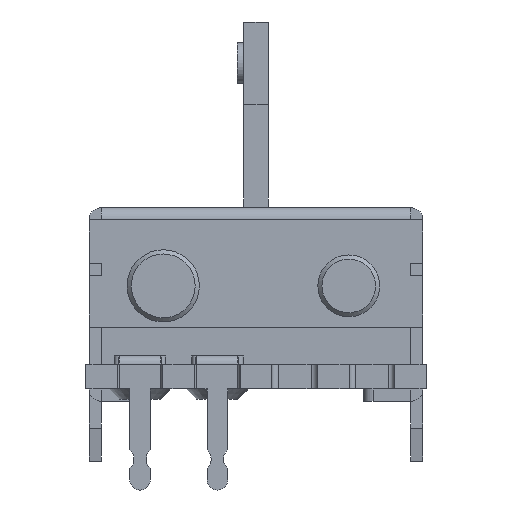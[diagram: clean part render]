
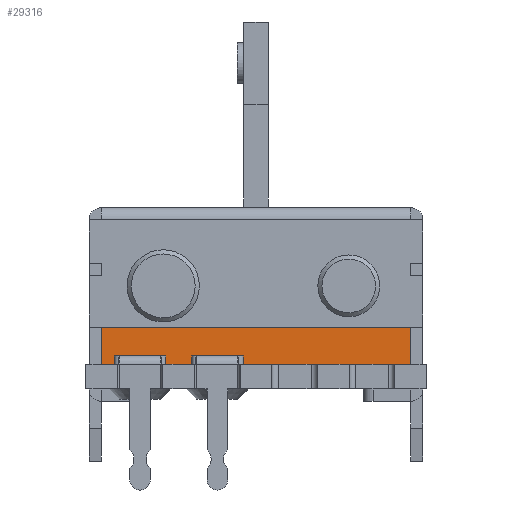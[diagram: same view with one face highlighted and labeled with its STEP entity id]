
A CAD part, left-side view. The second image highlights one B-rep face of the part: STEP entity #29316.
In plain terms, the highlighted planar face has unit normal (-1, 0, 0).
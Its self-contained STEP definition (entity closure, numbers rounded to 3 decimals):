
#10059 = PLANE('',#10060);
#10060 = AXIS2_PLACEMENT_3D('',#10061,#10062,#10063);
#10061 = CARTESIAN_POINT('',(-39.3,-9.5,-7.6));
#10062 = DIRECTION('',(1.,0.,0.));
#10063 = DIRECTION('',(0.,0.,1.));
#10085 = PLANE('',#10086);
#10086 = AXIS2_PLACEMENT_3D('',#10087,#10088,#10089);
#10087 = CARTESIAN_POINT('',(-44.,-8.25,-7.6));
#10088 = DIRECTION('',(0.,0.,1.));
#10089 = DIRECTION('',(1.,0.,0.));
#11680 = PLANE('',#11681);
#11681 = AXIS2_PLACEMENT_3D('',#11682,#11683,#11684);
#11682 = CARTESIAN_POINT('',(-39.3,7.5,-7.6));
#11683 = DIRECTION('',(1.,0.,0.));
#11684 = DIRECTION('',(0.,0.,1.));
#23017 = VERTEX_POINT('',#23018);
#23018 = CARTESIAN_POINT('',(-39.3,-7.5,-7.6));
#23039 = EDGE_CURVE('',#23017,#23040,#23042,.T.);
#23040 = VERTEX_POINT('',#23041);
#23041 = CARTESIAN_POINT('',(-39.3,7.5,-7.6));
#23042 = SURFACE_CURVE('',#23043,(#23047,#23054),.PCURVE_S1.);
#23043 = LINE('',#23044,#23045);
#23044 = CARTESIAN_POINT('',(-39.3,-8.35,-7.6));
#23045 = VECTOR('',#23046,1.);
#23046 = DIRECTION('',(0.,1.,0.));
#23047 = PCURVE('',#10085,#23048);
#23048 = DEFINITIONAL_REPRESENTATION('',(#23049),#23053);
#23049 = LINE('',#23050,#23051);
#23050 = CARTESIAN_POINT('',(4.7,-0.1));
#23051 = VECTOR('',#23052,1.);
#23052 = DIRECTION('',(0.,1.));
#23053 = ( GEOMETRIC_REPRESENTATION_CONTEXT(2) 
PARAMETRIC_REPRESENTATION_CONTEXT() REPRESENTATION_CONTEXT('2D SPACE',''
  ) );
#23054 = PCURVE('',#23055,#23060);
#23055 = PLANE('',#23056);
#23056 = AXIS2_PLACEMENT_3D('',#23057,#23058,#23059);
#23057 = CARTESIAN_POINT('',(-39.3,-9.2,-16.8));
#23058 = DIRECTION('',(1.,0.,0.));
#23059 = DIRECTION('',(0.,0.,1.));
#23060 = DEFINITIONAL_REPRESENTATION('',(#23061),#23064);
#23061 = B_SPLINE_CURVE_WITH_KNOTS('',1,(#23062,#23063),.UNSPECIFIED.,
  .F.,.F.,(2,2),(0.85,15.85),.PIECEWISE_BEZIER_KNOTS.);
#23062 = CARTESIAN_POINT('',(9.2,-1.7));
#23063 = CARTESIAN_POINT('',(9.2,-16.7));
#23064 = ( GEOMETRIC_REPRESENTATION_CONTEXT(2) 
PARAMETRIC_REPRESENTATION_CONTEXT() REPRESENTATION_CONTEXT('2D SPACE',''
  ) );
#23745 = EDGE_CURVE('',#23017,#23746,#23748,.T.);
#23746 = VERTEX_POINT('',#23747);
#23747 = CARTESIAN_POINT('',(-39.3,-7.5,-5.8));
#23748 = SURFACE_CURVE('',#23749,(#23753,#23760),.PCURVE_S1.);
#23749 = LINE('',#23750,#23751);
#23750 = CARTESIAN_POINT('',(-39.3,-7.5,-7.6));
#23751 = VECTOR('',#23752,1.);
#23752 = DIRECTION('',(0.,0.,1.));
#23753 = PCURVE('',#10059,#23754);
#23754 = DEFINITIONAL_REPRESENTATION('',(#23755),#23759);
#23755 = LINE('',#23756,#23757);
#23756 = CARTESIAN_POINT('',(0.,-2.));
#23757 = VECTOR('',#23758,1.);
#23758 = DIRECTION('',(1.,0.));
#23759 = ( GEOMETRIC_REPRESENTATION_CONTEXT(2) 
PARAMETRIC_REPRESENTATION_CONTEXT() REPRESENTATION_CONTEXT('2D SPACE',''
  ) );
#23760 = PCURVE('',#23055,#23761);
#23761 = DEFINITIONAL_REPRESENTATION('',(#23762),#23766);
#23762 = LINE('',#23763,#23764);
#23763 = CARTESIAN_POINT('',(9.2,-1.7));
#23764 = VECTOR('',#23765,1.);
#23765 = DIRECTION('',(1.,0.));
#23766 = ( GEOMETRIC_REPRESENTATION_CONTEXT(2) 
PARAMETRIC_REPRESENTATION_CONTEXT() REPRESENTATION_CONTEXT('2D SPACE',''
  ) );
#23810 = PLANE('',#23811);
#23811 = AXIS2_PLACEMENT_3D('',#23812,#23813,#23814);
#23812 = CARTESIAN_POINT('',(-39.3,-9.2,-5.8));
#23813 = DIRECTION('',(0.,0.,1.));
#23814 = DIRECTION('',(-1.,0.,0.));
#26868 = VERTEX_POINT('',#26869);
#26869 = CARTESIAN_POINT('',(-39.3,7.5,-5.8));
#26916 = EDGE_CURVE('',#23040,#26868,#26917,.T.);
#26917 = SURFACE_CURVE('',#26918,(#26922,#26929),.PCURVE_S1.);
#26918 = LINE('',#26919,#26920);
#26919 = CARTESIAN_POINT('',(-39.3,7.5,-7.6));
#26920 = VECTOR('',#26921,1.);
#26921 = DIRECTION('',(0.,0.,1.));
#26922 = PCURVE('',#11680,#26923);
#26923 = DEFINITIONAL_REPRESENTATION('',(#26924),#26928);
#26924 = LINE('',#26925,#26926);
#26925 = CARTESIAN_POINT('',(0.,0.));
#26926 = VECTOR('',#26927,1.);
#26927 = DIRECTION('',(1.,0.));
#26928 = ( GEOMETRIC_REPRESENTATION_CONTEXT(2) 
PARAMETRIC_REPRESENTATION_CONTEXT() REPRESENTATION_CONTEXT('2D SPACE',''
  ) );
#26929 = PCURVE('',#23055,#26930);
#26930 = DEFINITIONAL_REPRESENTATION('',(#26931),#26935);
#26931 = LINE('',#26932,#26933);
#26932 = CARTESIAN_POINT('',(9.2,-16.7));
#26933 = VECTOR('',#26934,1.);
#26934 = DIRECTION('',(1.,0.));
#26935 = ( GEOMETRIC_REPRESENTATION_CONTEXT(2) 
PARAMETRIC_REPRESENTATION_CONTEXT() REPRESENTATION_CONTEXT('2D SPACE',''
  ) );
#29316 = ADVANCED_FACE('',(#29317),#23055,.F.);
#29317 = FACE_BOUND('',#29318,.F.);
#29318 = EDGE_LOOP('',(#29319,#29340,#29341,#29342));
#29319 = ORIENTED_EDGE('',*,*,#29320,.F.);
#29320 = EDGE_CURVE('',#23746,#26868,#29321,.T.);
#29321 = SURFACE_CURVE('',#29322,(#29326,#29333),.PCURVE_S1.);
#29322 = LINE('',#29323,#29324);
#29323 = CARTESIAN_POINT('',(-39.3,-9.2,-5.8));
#29324 = VECTOR('',#29325,1.);
#29325 = DIRECTION('',(0.,1.,0.));
#29326 = PCURVE('',#23055,#29327);
#29327 = DEFINITIONAL_REPRESENTATION('',(#29328),#29332);
#29328 = LINE('',#29329,#29330);
#29329 = CARTESIAN_POINT('',(11.,0.));
#29330 = VECTOR('',#29331,1.);
#29331 = DIRECTION('',(0.,-1.));
#29332 = ( GEOMETRIC_REPRESENTATION_CONTEXT(2) 
PARAMETRIC_REPRESENTATION_CONTEXT() REPRESENTATION_CONTEXT('2D SPACE',''
  ) );
#29333 = PCURVE('',#23810,#29334);
#29334 = DEFINITIONAL_REPRESENTATION('',(#29335),#29339);
#29335 = LINE('',#29336,#29337);
#29336 = CARTESIAN_POINT('',(0.,0.));
#29337 = VECTOR('',#29338,1.);
#29338 = DIRECTION('',(0.,-1.));
#29339 = ( GEOMETRIC_REPRESENTATION_CONTEXT(2) 
PARAMETRIC_REPRESENTATION_CONTEXT() REPRESENTATION_CONTEXT('2D SPACE',''
  ) );
#29340 = ORIENTED_EDGE('',*,*,#23745,.F.);
#29341 = ORIENTED_EDGE('',*,*,#23039,.T.);
#29342 = ORIENTED_EDGE('',*,*,#26916,.T.);
